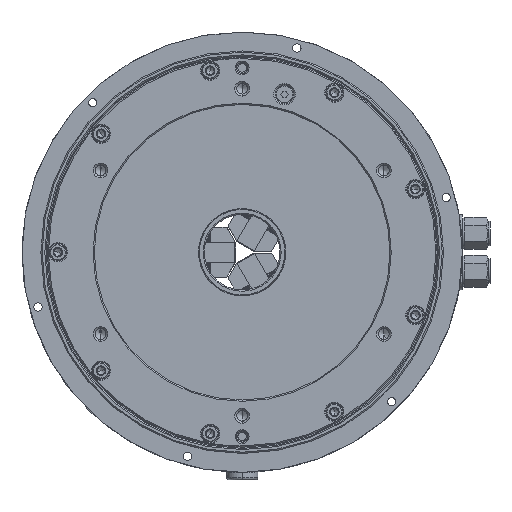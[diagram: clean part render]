
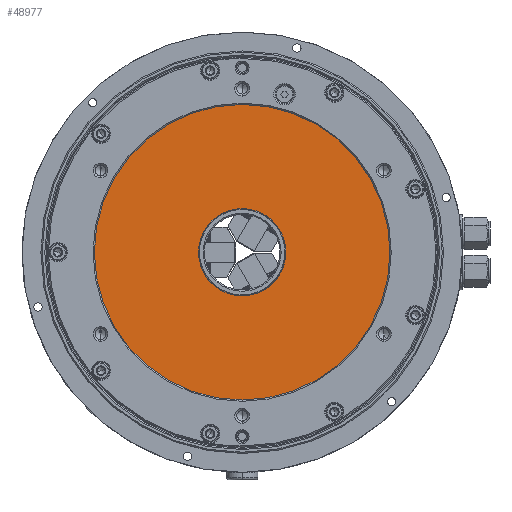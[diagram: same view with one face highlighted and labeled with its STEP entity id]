
A CAD part, left-side view. The second image highlights one B-rep face of the part: STEP entity #48977.
In plain terms, the highlighted planar face has unit normal (-1, 0, 0).
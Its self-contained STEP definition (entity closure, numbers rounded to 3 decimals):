
#2777 = AXIS2_PLACEMENT_3D ( 'NONE', #141190, #96441, #95668 ) ;
#6289 = DIRECTION ( 'NONE',  ( 1., 0., 0. ) ) ;
#7914 = AXIS2_PLACEMENT_3D ( 'NONE', #135186, #6289, #29457 ) ;
#12296 = CIRCLE ( 'NONE', #61633, 34.7 ) ;
#17189 = DIRECTION ( 'NONE',  ( -1., 0., 0. ) ) ;
#24636 = AXIS2_PLACEMENT_3D ( 'NONE', #30578, #91518, #113932 ) ;
#25168 = EDGE_CURVE ( 'NONE', #36815, #115565, #12296, .T. ) ;
#25722 = ORIENTED_EDGE ( 'NONE', *, *, #51511, .T. ) ;
#29457 = DIRECTION ( 'NONE',  ( 0., 0., -1. ) ) ;
#30578 = CARTESIAN_POINT ( 'NONE',  ( -6., 0., 0. ) ) ;
#34389 = AXIS2_PLACEMENT_3D ( 'NONE', #141799, #36080, #60741 ) ;
#36080 = DIRECTION ( 'NONE',  ( -1., 0., 0. ) ) ;
#36815 = VERTEX_POINT ( 'NONE', #103400 ) ;
#37442 = FACE_BOUND ( 'NONE', #96770, .T. ) ;
#41059 = FACE_OUTER_BOUND ( 'NONE', #53468, .T. ) ;
#48977 = ADVANCED_FACE ( 'NONE', ( #37442, #41059 ), #96893, .F. ) ;
#49309 = CIRCLE ( 'NONE', #24636, 117.5 ) ;
#51511 = EDGE_CURVE ( 'NONE', #90648, #132736, #118711, .T. ) ;
#52762 = CARTESIAN_POINT ( 'NONE',  ( -6., 0., -117.5 ) ) ;
#53468 = EDGE_LOOP ( 'NONE', ( #25722, #72528 ) ) ;
#60741 = DIRECTION ( 'NONE',  ( 0., 0., 1. ) ) ;
#61633 = AXIS2_PLACEMENT_3D ( 'NONE', #78145, #17189, #125208 ) ;
#66541 = ORIENTED_EDGE ( 'NONE', *, *, #104165, .F. ) ;
#72528 = ORIENTED_EDGE ( 'NONE', *, *, #100341, .T. ) ;
#78145 = CARTESIAN_POINT ( 'NONE',  ( -6., 0., 0. ) ) ;
#80586 = ORIENTED_EDGE ( 'NONE', *, *, #25168, .F. ) ;
#90648 = VERTEX_POINT ( 'NONE', #111856 ) ;
#91518 = DIRECTION ( 'NONE',  ( -1., 0., 0. ) ) ;
#95668 = DIRECTION ( 'NONE',  ( 0., 0., 1. ) ) ;
#96441 = DIRECTION ( 'NONE',  ( -1., 0., 0. ) ) ;
#96770 = EDGE_LOOP ( 'NONE', ( #80586, #66541 ) ) ;
#96893 = PLANE ( 'NONE',  #7914 ) ;
#100341 = EDGE_CURVE ( 'NONE', #132736, #90648, #49309, .T. ) ;
#103400 = CARTESIAN_POINT ( 'NONE',  ( -6., 0., 34.7 ) ) ;
#104165 = EDGE_CURVE ( 'NONE', #115565, #36815, #150176, .T. ) ;
#111308 = CARTESIAN_POINT ( 'NONE',  ( -6., 0., -34.7 ) ) ;
#111856 = CARTESIAN_POINT ( 'NONE',  ( -6., 0., 117.5 ) ) ;
#113932 = DIRECTION ( 'NONE',  ( 0., 0., 1. ) ) ;
#115565 = VERTEX_POINT ( 'NONE', #111308 ) ;
#118711 = CIRCLE ( 'NONE', #2777, 117.5 ) ;
#125208 = DIRECTION ( 'NONE',  ( 0., 0., 1. ) ) ;
#132736 = VERTEX_POINT ( 'NONE', #52762 ) ;
#135186 = CARTESIAN_POINT ( 'NONE',  ( -6., 34.7, 0. ) ) ;
#141190 = CARTESIAN_POINT ( 'NONE',  ( -6., 0., 0. ) ) ;
#141799 = CARTESIAN_POINT ( 'NONE',  ( -6., 0., 0. ) ) ;
#150176 = CIRCLE ( 'NONE', #34389, 34.7 ) ;
